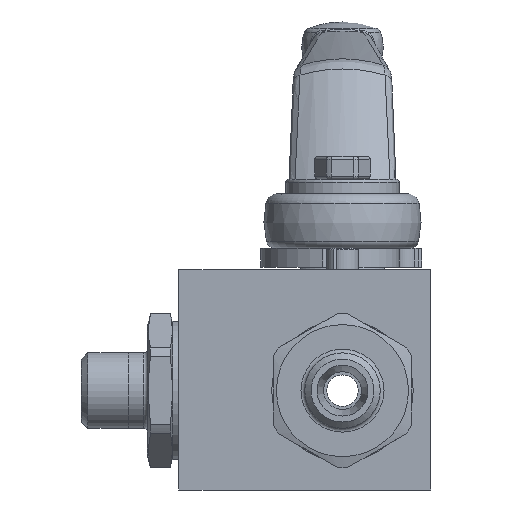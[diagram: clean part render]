
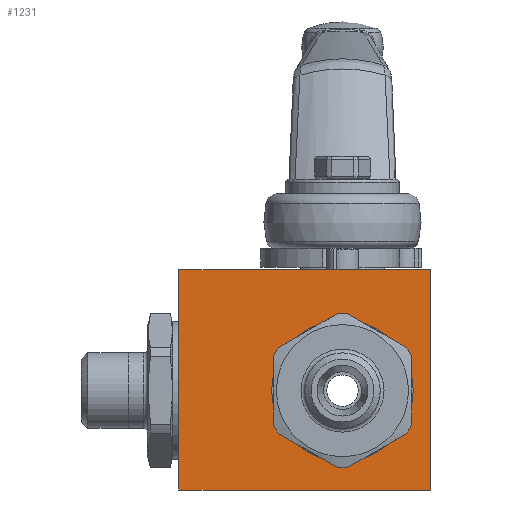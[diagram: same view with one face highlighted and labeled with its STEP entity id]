
A CAD part, front view. The second image highlights one B-rep face of the part: STEP entity #1231.
In plain terms, the highlighted planar face has unit normal (0, -1, 0).
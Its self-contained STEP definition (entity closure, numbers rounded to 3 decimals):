
#1231 = ADVANCED_FACE( '', ( #2457, #2458 ), #2459, .T. );
#2457 = FACE_OUTER_BOUND( '', #4515, .T. );
#2458 = FACE_BOUND( '', #4516, .T. );
#2459 = PLANE( '', #4517 );
#4515 = EDGE_LOOP( '', ( #7458, #7459, #7460, #7461 ) );
#4516 = EDGE_LOOP( '', ( #7462 ) );
#4517 = AXIS2_PLACEMENT_3D( '', #7463, #7464, #7465 );
#7458 = ORIENTED_EDGE( '', *, *, #8986, .T. );
#7459 = ORIENTED_EDGE( '', *, *, #8828, .T. );
#7460 = ORIENTED_EDGE( '', *, *, #8782, .T. );
#7461 = ORIENTED_EDGE( '', *, *, #8104, .T. );
#7462 = ORIENTED_EDGE( '', *, *, #8375, .T. );
#7463 = CARTESIAN_POINT( '', ( -26., -17.5, -15.8 ) );
#7464 = DIRECTION( '', ( 0., -1., 0. ) );
#7465 = DIRECTION( '', ( 0., 0., -1. ) );
#8104 = EDGE_CURVE( '', #9462, #9460, #9463, .T. );
#8375 = EDGE_CURVE( '', #9886, #9886, #9887, .T. );
#8782 = EDGE_CURVE( '', #10450, #9462, #10451, .T. );
#8828 = EDGE_CURVE( '', #10507, #10450, #10508, .T. );
#8986 = EDGE_CURVE( '', #9460, #10507, #10693, .T. );
#9460 = VERTEX_POINT( '', #11541 );
#9462 = VERTEX_POINT( '', #11544 );
#9463 = LINE( '', #11545, #11546 );
#9886 = VERTEX_POINT( '', #12440 );
#9887 = CIRCLE( '', #12441, 11.25 );
#10450 = VERTEX_POINT( '', #13488 );
#10451 = LINE( '', #13489, #13490 );
#10507 = VERTEX_POINT( '', #13649 );
#10508 = LINE( '', #13650, #13651 );
#10693 = LINE( '', #14133, #14134 );
#11541 = CARTESIAN_POINT( '', ( -26., -17.5, 19.2 ) );
#11544 = CARTESIAN_POINT( '', ( 14., -17.5, 19.2 ) );
#11545 = CARTESIAN_POINT( '', ( 14., -17.5, 19.2 ) );
#11546 = VECTOR( '', #14642, 1000. );
#12440 = CARTESIAN_POINT( '', ( 11.25, -17.5, 0. ) );
#12441 = AXIS2_PLACEMENT_3D( '', #14988, #14989, #14990 );
#13488 = CARTESIAN_POINT( '', ( 14., -17.5, -15.8 ) );
#13489 = CARTESIAN_POINT( '', ( 14., -17.5, -15.8 ) );
#13490 = VECTOR( '', #15457, 1000. );
#13649 = CARTESIAN_POINT( '', ( -26., -17.5, -15.8 ) );
#13650 = CARTESIAN_POINT( '', ( -26., -17.5, -15.8 ) );
#13651 = VECTOR( '', #15501, 1000. );
#14133 = CARTESIAN_POINT( '', ( -26., -17.5, 19.2 ) );
#14134 = VECTOR( '', #15621, 1000. );
#14642 = DIRECTION( '', ( -1., 0., 0. ) );
#14988 = CARTESIAN_POINT( '', ( 0., -17.5, 0. ) );
#14989 = DIRECTION( '', ( 0., 1., 0. ) );
#14990 = DIRECTION( '', ( 1., 0., 0. ) );
#15457 = DIRECTION( '', ( 0., 0., 1. ) );
#15501 = DIRECTION( '', ( 1., 0., 0. ) );
#15621 = DIRECTION( '', ( 0., 0., -1. ) );
